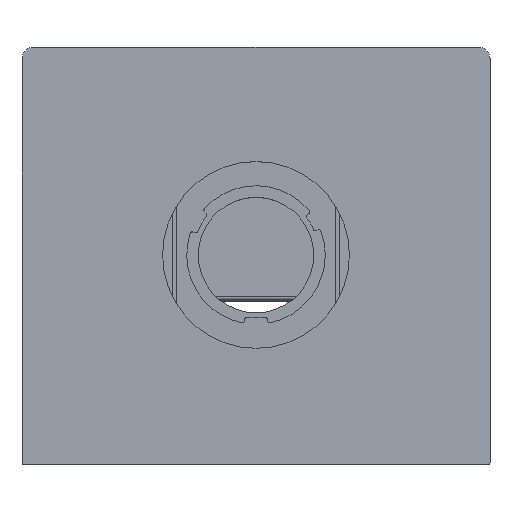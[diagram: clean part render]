
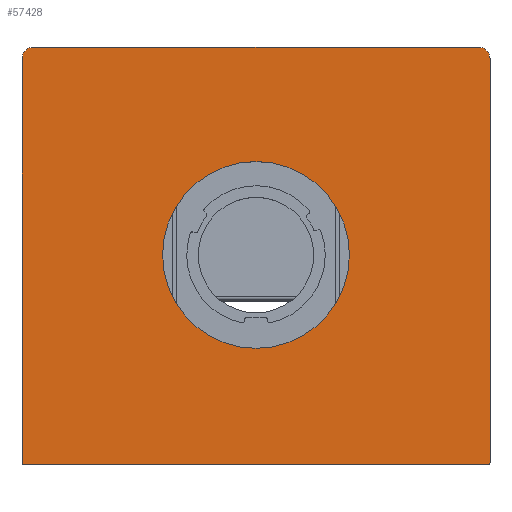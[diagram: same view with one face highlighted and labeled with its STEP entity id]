
A CAD part, top view. The second image highlights one B-rep face of the part: STEP entity #57428.
In plain terms, the highlighted planar face has unit normal (0, 0, 1).
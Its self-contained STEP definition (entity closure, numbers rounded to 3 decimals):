
#869=FACE_BOUND('',#8927,.T.);
#2631=PLANE('',#62591);
#5652=FACE_OUTER_BOUND('',#8926,.T.);
#8926=EDGE_LOOP('',(#50272,#50273,#50274,#50275,#50276,#50277,#50278,#50279));
#8927=EDGE_LOOP('',(#50280));
#14374=LINE('',#100032,#19826);
#14377=LINE('',#100038,#19829);
#14378=LINE('',#100042,#19830);
#14379=LINE('',#100046,#19831);
#19826=VECTOR('',#78233,10.);
#19829=VECTOR('',#78238,10.);
#19830=VECTOR('',#78241,10.);
#19831=VECTOR('',#78244,10.);
#21897=CIRCLE('',#62589,2.);
#21898=CIRCLE('',#62592,11.);
#21899=CIRCLE('',#62593,11.);
#21900=CIRCLE('',#62594,2.);
#21901=CIRCLE('',#62595,89.);
#26758=VERTEX_POINT('',#100025);
#26759=VERTEX_POINT('',#100027);
#26760=VERTEX_POINT('',#100031);
#26762=VERTEX_POINT('',#100037);
#26763=VERTEX_POINT('',#100039);
#26764=VERTEX_POINT('',#100041);
#26765=VERTEX_POINT('',#100043);
#26766=VERTEX_POINT('',#100045);
#26767=VERTEX_POINT('',#100048);
#34597=EDGE_CURVE('',#26758,#26759,#21897,.T.);
#34599=EDGE_CURVE('',#26759,#26760,#14374,.T.);
#34602=EDGE_CURVE('',#26762,#26758,#14377,.T.);
#34603=EDGE_CURVE('',#26763,#26762,#21898,.T.);
#34604=EDGE_CURVE('',#26764,#26763,#14378,.T.);
#34605=EDGE_CURVE('',#26765,#26764,#21899,.T.);
#34606=EDGE_CURVE('',#26766,#26765,#14379,.T.);
#34607=EDGE_CURVE('',#26760,#26766,#21900,.T.);
#34608=EDGE_CURVE('',#26767,#26767,#21901,.T.);
#50272=ORIENTED_EDGE('',*,*,#34597,.F.);
#50273=ORIENTED_EDGE('',*,*,#34602,.F.);
#50274=ORIENTED_EDGE('',*,*,#34603,.F.);
#50275=ORIENTED_EDGE('',*,*,#34604,.F.);
#50276=ORIENTED_EDGE('',*,*,#34605,.F.);
#50277=ORIENTED_EDGE('',*,*,#34606,.F.);
#50278=ORIENTED_EDGE('',*,*,#34607,.F.);
#50279=ORIENTED_EDGE('',*,*,#34599,.F.);
#50280=ORIENTED_EDGE('',*,*,#34608,.T.);
#57428=ADVANCED_FACE('',(#5652,#869),#2631,.F.);
#62589=AXIS2_PLACEMENT_3D('',#100028,#78228,#78229);
#62591=AXIS2_PLACEMENT_3D('',#100036,#78236,#78237);
#62592=AXIS2_PLACEMENT_3D('',#100040,#78239,#78240);
#62593=AXIS2_PLACEMENT_3D('',#100044,#78242,#78243);
#62594=AXIS2_PLACEMENT_3D('',#100047,#78245,#78246);
#62595=AXIS2_PLACEMENT_3D('',#100049,#78247,#78248);
#78228=DIRECTION('center_axis',(0.,0.,
-1.));
#78229=DIRECTION('ref_axis',(0.707,-0.707,0.));
#78233=DIRECTION('',(-1.,0.,0.));
#78236=DIRECTION('center_axis',(0.,0.,
-1.));
#78237=DIRECTION('ref_axis',(1.,0.,0.));
#78238=DIRECTION('',(0.,-1.,0.));
#78239=DIRECTION('center_axis',(0.,0.,
-1.));
#78240=DIRECTION('ref_axis',(0.707,0.707,0.));
#78241=DIRECTION('',(1.,0.,0.));
#78242=DIRECTION('center_axis',(0.,0.,
-1.));
#78243=DIRECTION('ref_axis',(-0.707,0.707,0.));
#78244=DIRECTION('',(0.,1.,0.));
#78245=DIRECTION('center_axis',(0.,0.,
-1.));
#78246=DIRECTION('ref_axis',(-0.707,-0.707,0.));
#78247=DIRECTION('center_axis',(0.,0.,
-1.));
#78248=DIRECTION('ref_axis',(1.,0.,0.));
#100025=CARTESIAN_POINT('',(223.,-393.,624.5));
#100027=CARTESIAN_POINT('',(221.,-395.,624.5));
#100028=CARTESIAN_POINT('Origin',(221.,-393.,624.5));
#100031=CARTESIAN_POINT('',(-221.,-395.,624.5));
#100032=CARTESIAN_POINT('',(223.,-395.,624.5));
#100036=CARTESIAN_POINT('Origin',(0.,-196.,624.5));
#100037=CARTESIAN_POINT('',(223.,-8.,624.5));
#100038=CARTESIAN_POINT('',(223.,3.,624.5));
#100039=CARTESIAN_POINT('',(212.,3.,624.5));
#100040=CARTESIAN_POINT('Origin',(212.,-8.,624.5));
#100041=CARTESIAN_POINT('',(-212.,3.,624.5));
#100042=CARTESIAN_POINT('',(-223.,3.,624.5));
#100043=CARTESIAN_POINT('',(-223.,-8.,624.5));
#100044=CARTESIAN_POINT('Origin',(-212.,-8.,624.5));
#100045=CARTESIAN_POINT('',(-223.,-393.,624.5));
#100046=CARTESIAN_POINT('',(-223.,-395.,624.5));
#100047=CARTESIAN_POINT('Origin',(-221.,-393.,624.5));
#100048=CARTESIAN_POINT('',(-89.,-195.,624.5));
#100049=CARTESIAN_POINT('Origin',(0.,-195.,624.5));
